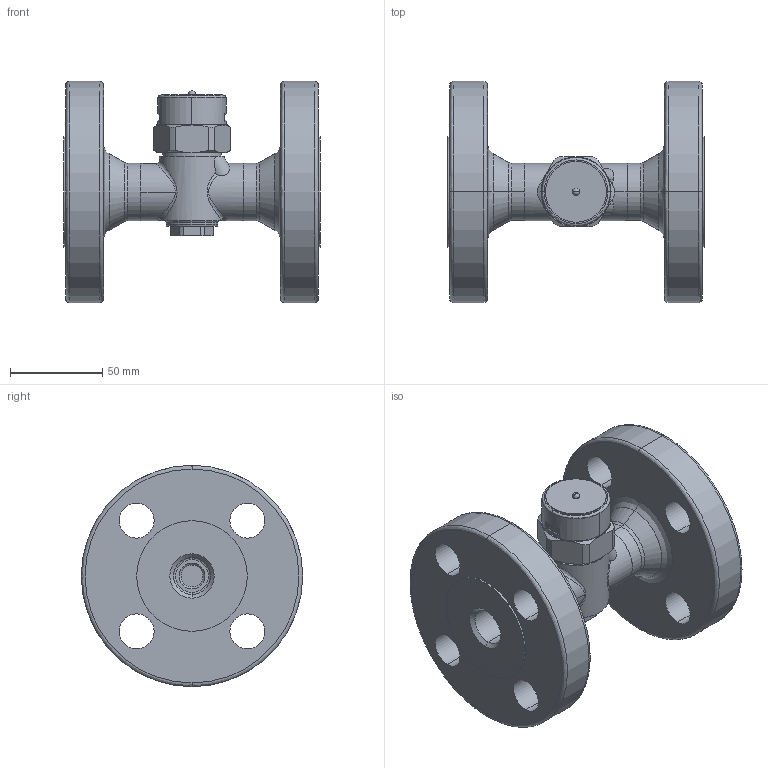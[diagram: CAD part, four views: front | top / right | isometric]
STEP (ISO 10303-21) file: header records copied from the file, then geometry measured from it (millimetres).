
FILE_DESCRIPTION( (''), '2;1');
FILE_NAME ('PC1276.13744.TSD-42F 20A JIS40K_29856.stp','2023-07-25T10:03:54',(''),(''),'spGate 19.8.4 (****-****-****-****)','','');
FILE_SCHEMA (('AUTOMOTIVE_DESIGN'));
Length unit declared in the file: millimetre
Products named in the file (10): Assembly; TSD-42F strainer cap; TSD-42F 銘板鋲; TSD-42F gasket; TSD-42F 20A  本体 3D; TSD-42F 銘板　3D; TSD-42F 保温カバー　3D; TSD-42F キャップA 3D; TSD-42F 20A 40K Flange 3D; TSD-42F 20A 40K Flange 3D_mr
Assembly tree (9 placements, depth 2):
  Assembly
    TSD-42F strainer cap
    TSD-42F 銘板鋲
    TSD-42F gasket
    TSD-42F 20A  本体 3D
    TSD-42F 銘板　3D
    TSD-42F 保温カバー　3D
    TSD-42F キャップA 3D
    TSD-42F 20A 40K Flange 3D
    TSD-42F 20A 40K Flange 3D_mr
Bounding box: 139 x 120 x 120 mm (x, y, z)
Volume: 514023.8 mm3; surface area: 101895.2 mm2
Topology: 9 solids, 9 shells, 310 faces, 702 edges, 417 vertices
Faces by surface type: cylinder 132, bspline 119, plane 57, sphere 2
Entity records: 17258 total; most frequent: CARTESIAN_POINT 5257, ORIENTED_EDGE 1360, DIRECTION 1166, COLOUR_RGB 999, PRESENTATION_STYLE_ASSIGNMENT 999, STYLED_ITEM 999, EDGE_CURVE 680, DRAUGHTING_PRE_DEFINED_CURVE_FONT 680
